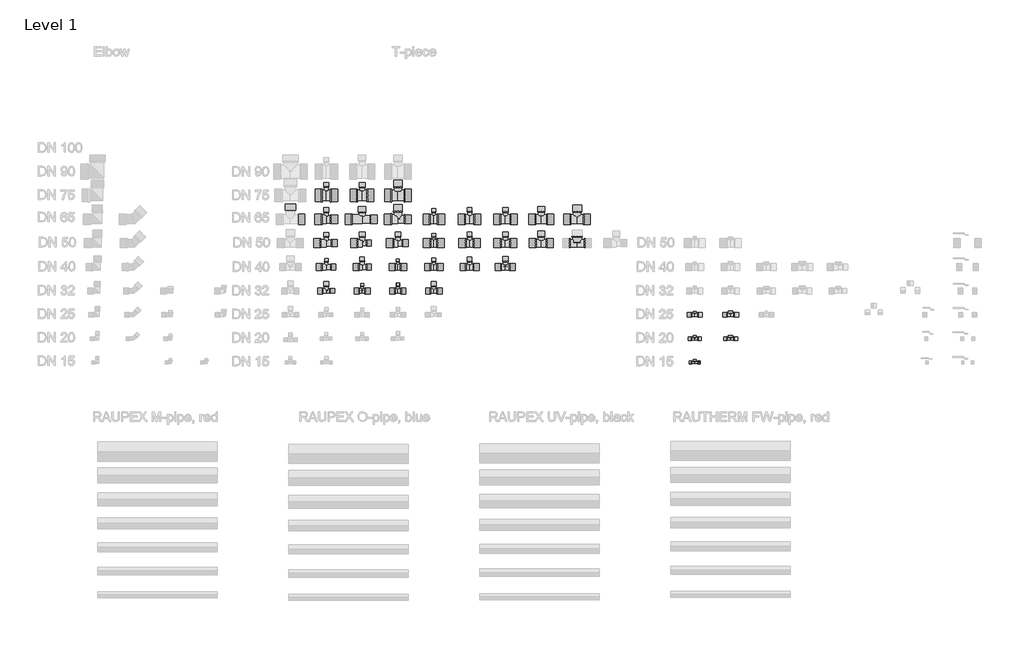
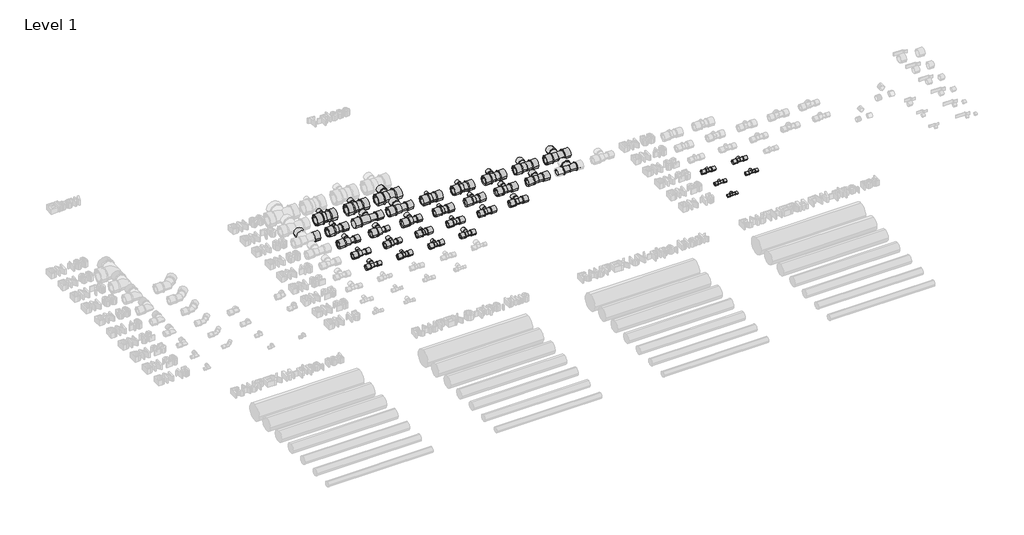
# One storey, part 5 of 16: 130 pipe fittings.
"""IFC4 building model written with IfcOpenShell, lengths in millimetres."""

from ifc_helpers import new_model, si_unit, origin, place, context, project, spatial, transform, mapped, element, save
from components import sleeve_lx_11_2e170aa1, sleeve_lx_11_3fcb8560, sleeve_lx_11_f19e3dbf, sleeve_lx_11_b9b419b6, sleeve_lx_11_e5eab1a7, sleeve_lx_11_ddfe2885, sleeve_lx_11_4a8bb2b2, sleeve_lx_11_864eb6fe, sleeve_lx_11_c8be5d8f, sleeve_rx_11_7b1edd19, sleeve_rx_11_d7b6a074, t_piece_sdr11_lx_0c38f34f, t_piece_sdr11_lx_75e13a52, t_piece_sdr11_lx_4c8c54f7, t_piece_sdr11_lx_63dd1f1d, t_piece_sdr11_lx_b9ecea4a, t_piece_sdr11_lx_dfdbaae2, t_piece_sdr11_lx_031e45e8, t_piece_sdr11_lx_8dcbc21c, t_piece_sdr11_lx_149c8f26, t_piece_sdr11_lx_bd781c14, t_piece_sdr11_lx_aa92336d, t_piece_sdr11_lx_82b26c80, t_piece_sdr11_lx_b870d911, t_piece_sdr11_lx_8f242d45, t_piece_sdr11_lx_a8b36c13, t_piece_sdr11_lx_7730ed08, t_piece_sdr11_lx_51ccf36a, t_piece_sdr11_lx_t_piece_sdr11_rx_21ca84d2, t_piece_sdr11_lx_t_piece_sdr11_rx_c902879b, t_piece_sdr11_lx_t_piece_sdr11_rx_e4a54ba6, t_piece_sdr11_lx_t_piece_sdr11_rx_5d5b0444, t_piece_sdr11_lx_t_piece_sdr11_rx_ea6c35c2, t_piece_sdr11_lx_t_piece_sdr11_rx_5838618a, t_piece_sdr11_lx_t_piece_sdr11_rx_05f4d052, t_piece_sdr11_lx_t_piece_sdr11_rx_636d46ae, t_piece_sdr11_lx_t_piece_sdr11_rx_d9e8349e, t_piece_sdr11_lx_t_piece_sdr11_rx_7a841b34, t_piece_sdr11_lx_t_piece_sdr11_rx_10ffb44c, t_piece_sdr11_lx_t_piece_sdr11_rx_3943f51e, t_piece_sdr11_internal_thread_lx_8e1e4240, t_piece_sdr11_internal_thread_lx_d718ae2c, t_piece_sdr11_internal_thread_lx_568c0ff7, t_piece_sdr11_internal_thread_lx_c276f615, t_piece_sdr11_internal_thread_lx_835d7b5e

model = new_model("IFC4")

# Units and contexts
model_context = context("Model", 3, world=origin())
ifc_project = project(units=[si_unit("LENGTHUNIT", "METRE", prefix="MILLI")], contexts=[model_context])

# Site, building, storey
site = spatial("IfcSite", under=ifc_project)
building = spatial("IfcBuilding", under=site)
storey = spatial("IfcBuildingStorey", under=building, Name="Level 1", Elevation=0.0)

# Pipe fittings
placement = place(None, origin())
sleeve_lx_11_shape = sleeve_lx_11_2e170aa1(model_context)
element("IfcPipeFitting", 1, ObjectType="Sleeve : LX 11", at=placement, inside=storey, context=model_context, shape_type="MappedRepresentation", body=[
    mapped(sleeve_lx_11_shape, transform((19447.2141419, 840.5489138, 0.0), x_axis=(1.0, 0.0, 0.0), y_axis=(0.0, 1.0, 0.0), z_axis=(0.0, 0.0, 1.0))),
])
element("IfcPipeFitting", 2, ObjectType="Sleeve : LX 11", at=placement, inside=storey, context=model_context, shape_type="MappedRepresentation", body=[
    mapped(sleeve_lx_11_shape, transform((19743.9141419, 840.5489138, 0.0), x_axis=(1.0, 0.0, 0.0), y_axis=(0.0, 1.0, 0.0), z_axis=(0.0, 0.0, 1.0))),
])
element("IfcPipeFitting", 3, ObjectType="Sleeve : LX 11", at=placement, inside=storey, context=model_context, shape_type="MappedRepresentation", body=[
    mapped(sleeve_lx_11_shape, transform((16426.2141419, 1082.5489138, 0.0), x_axis=(0.0, 1.0, 0.0), y_axis=(-1.0, 0.0, 0.0), z_axis=(0.0, 0.0, 1.0))),
])
element("IfcPipeFitting", 4, ObjectType="Sleeve : LX 11", at=placement, inside=storey, context=model_context, shape_type="MappedRepresentation", body=[
    mapped(sleeve_lx_11_shape, transform((16461.2141419, 1040.5489138, 0.0), x_axis=(1.0, 0.0, 0.0), y_axis=(0.0, 1.0, 0.0), z_axis=(0.0, 0.0, 1.0))),
])
element("IfcPipeFitting", 5, ObjectType="Sleeve : LX 11", at=placement, inside=storey, context=model_context, shape_type="MappedRepresentation", body=[
    mapped(sleeve_lx_11_shape, transform((16726.2141419, 1288.9489138, 0.0), x_axis=(0.0, 1.0, 0.0), y_axis=(-1.0, 0.0, 0.0), z_axis=(0.0, 0.0, 1.0))),
])
element("IfcPipeFitting", 6, ObjectType="Sleeve : LX 11", at=placement, inside=storey, context=model_context, shape_type="MappedRepresentation", body=[
    mapped(sleeve_lx_11_shape, transform((16426.2141419, 1495.5489138, 0.0), x_axis=(0.0, 1.0, 0.0), y_axis=(-1.0, 0.0, 0.0), z_axis=(0.0, 0.0, 1.0))),
])
element("IfcPipeFitting", 7, ObjectType="Sleeve : LX 11", at=placement, inside=storey, context=model_context, shape_type="MappedRepresentation", body=[
    mapped(sleeve_lx_11_shape, transform((16426.2141419, 1702.5489138, 0.0), x_axis=(0.0, 1.0, 0.0), y_axis=(-1.0, 0.0, 0.0), z_axis=(0.0, 0.0, 1.0))),
])
element("IfcPipeFitting", 8, ObjectType="Sleeve : LX 11", at=placement, inside=storey, context=model_context, shape_type="MappedRepresentation", body=[
    mapped(sleeve_lx_11_shape, transform((17326.2141419, 1082.5489138, 0.0), x_axis=(0.0, 1.0, 0.0), y_axis=(-1.0, 0.0, 0.0), z_axis=(0.0, 0.0, 1.0))),
])
element("IfcPipeFitting", 9, ObjectType="Sleeve : LX 11", at=placement, inside=storey, context=model_context, shape_type="MappedRepresentation", body=[
    mapped(sleeve_lx_11_shape, transform((17626.2141419, 1287.3489138, 0.0), x_axis=(0.0, 1.0, 0.0), y_axis=(-1.0, 0.0, 0.0), z_axis=(0.0, 0.0, 1.0))),
])
element("IfcPipeFitting", 10, ObjectType="Sleeve : LX 11", at=placement, inside=storey, context=model_context, shape_type="MappedRepresentation", body=[
    mapped(sleeve_lx_11_shape, transform((17626.2141419, 1497.5489138, 0.0), x_axis=(0.0, 1.0, 0.0), y_axis=(-1.0, 0.0, 0.0), z_axis=(0.0, 0.0, 1.0))),
])
element("IfcPipeFitting", 11, ObjectType="Sleeve : LX 11", at=placement, inside=storey, context=model_context, shape_type="MappedRepresentation", body=[
    mapped(sleeve_lx_11_shape, transform((17626.2141419, 1703.3489138, 0.0), x_axis=(0.0, 1.0, 0.0), y_axis=(-1.0, 0.0, 0.0), z_axis=(0.0, 0.0, 1.0))),
])
element("IfcPipeFitting", 12, ObjectType="Sleeve : LX 11", at=placement, inside=storey, context=model_context, shape_type="MappedRepresentation", body=[
    mapped(sleeve_lx_11_shape, transform((16426.2141419, 1913.0489138, 0.0), x_axis=(0.0, 1.0, 0.0), y_axis=(-1.0, 0.0, 0.0), z_axis=(0.0, 0.0, 1.0))),
])
sleeve_lx_11_2_shape = sleeve_lx_11_3fcb8560(model_context)
element("IfcPipeFitting", 13, ObjectType="Sleeve : LX 11", at=placement, inside=storey, context=model_context, shape_type="MappedRepresentation", body=[
    mapped(sleeve_lx_11_2_shape, transform((19463.2141419, 440.5489138, 0.0), x_axis=(1.0, 0.0, 0.0), y_axis=(0.0, 1.0, 0.0), z_axis=(0.0, 0.0, 1.0))),
])
element("IfcPipeFitting", 14, ObjectType="Sleeve : LX 11", at=placement, inside=storey, context=model_context, shape_type="MappedRepresentation", body=[
    mapped(sleeve_lx_11_2_shape, transform((16726.2141419, 1082.7489138, 0.0), x_axis=(0.0, 1.0, 0.0), y_axis=(-1.0, 0.0, 0.0), z_axis=(0.0, 0.0, 1.0))),
])
element("IfcPipeFitting", 15, ObjectType="Sleeve : LX 11", at=placement, inside=storey, context=model_context, shape_type="MappedRepresentation", body=[
    mapped(sleeve_lx_11_2_shape, transform((17026.2141419, 1286.3489138, 0.0), x_axis=(0.0, 1.0, 0.0), y_axis=(-1.0, 0.0, 0.0), z_axis=(0.0, 0.0, 1.0))),
])
sleeve_lx_11_3_shape = sleeve_lx_11_f19e3dbf(model_context)
element("IfcPipeFitting", 16, ObjectType="Sleeve : LX 11", at=placement, inside=storey, context=model_context, shape_type="MappedRepresentation", body=[
    mapped(sleeve_lx_11_3_shape, transform((19456.2141419, 640.5489138, 0.0), x_axis=(1.0, 0.0, 0.0), y_axis=(0.0, 1.0, 0.0), z_axis=(0.0, 0.0, 1.0))),
])
element("IfcPipeFitting", 17, ObjectType="Sleeve : LX 11", at=placement, inside=storey, context=model_context, shape_type="MappedRepresentation", body=[
    mapped(sleeve_lx_11_3_shape, transform((19752.9141419, 640.5489138, 0.0), x_axis=(1.0, 0.0, 0.0), y_axis=(0.0, 1.0, 0.0), z_axis=(0.0, 0.0, 1.0))),
])
element("IfcPipeFitting", 18, ObjectType="Sleeve : LX 11", at=placement, inside=storey, context=model_context, shape_type="MappedRepresentation", body=[
    mapped(sleeve_lx_11_3_shape, transform((16426.2141419, 1286.4489138, 0.0), x_axis=(0.0, 1.0, 0.0), y_axis=(-1.0, 0.0, 0.0), z_axis=(0.0, 0.0, 1.0))),
])
element("IfcPipeFitting", 19, ObjectType="Sleeve : LX 11", at=placement, inside=storey, context=model_context, shape_type="MappedRepresentation", body=[
    mapped(sleeve_lx_11_3_shape, transform((17026.2141419, 1081.0489138, 0.0), x_axis=(0.0, 1.0, 0.0), y_axis=(-1.0, 0.0, 0.0), z_axis=(0.0, 0.0, 1.0))),
])
element("IfcPipeFitting", 20, ObjectType="Sleeve : LX 11", at=placement, inside=storey, context=model_context, shape_type="MappedRepresentation", body=[
    mapped(sleeve_lx_11_3_shape, transform((17326.2141419, 1287.8489138, 0.0), x_axis=(0.0, 1.0, 0.0), y_axis=(-1.0, 0.0, 0.0), z_axis=(0.0, 0.0, 1.0))),
])
element("IfcPipeFitting", 21, ObjectType="Sleeve : LX 11", at=placement, inside=storey, context=model_context, shape_type="MappedRepresentation", body=[
    mapped(sleeve_lx_11_3_shape, transform((17326.2141419, 1493.7489138, 0.0), x_axis=(0.0, 1.0, 0.0), y_axis=(-1.0, 0.0, 0.0), z_axis=(0.0, 0.0, 1.0))),
])
element("IfcPipeFitting", 22, ObjectType="Sleeve : LX 11", at=placement, inside=storey, context=model_context, shape_type="MappedRepresentation", body=[
    mapped(sleeve_lx_11_3_shape, transform((17326.2141419, 1701.5489138, 0.0), x_axis=(0.0, 1.0, 0.0), y_axis=(-1.0, 0.0, 0.0), z_axis=(0.0, 0.0, 1.0))),
])
sleeve_lx_11_4_shape = sleeve_lx_11_b9b419b6(model_context)
element("IfcPipeFitting", 23, ObjectType="Sleeve : LX 11", at=placement, inside=storey, context=model_context, shape_type="MappedRepresentation", body=[
    mapped(sleeve_lx_11_4_shape, transform((16354.2141419, 1040.5489138, 0.0), x_axis=(1.0, 0.0, 0.0), y_axis=(0.0, 1.0, 0.0), z_axis=(0.0, 0.0, 1.0))),
])
element("IfcPipeFitting", 24, ObjectType="Sleeve : LX 11", at=placement, inside=storey, context=model_context, shape_type="MappedRepresentation", body=[
    mapped(sleeve_lx_11_4_shape, transform((16469.2141419, 1240.5489138, 0.0), x_axis=(1.0, 0.0, 0.0), y_axis=(0.0, 1.0, 0.0), z_axis=(0.0, 0.0, 1.0))),
])
element("IfcPipeFitting", 25, ObjectType="Sleeve : LX 11", at=placement, inside=storey, context=model_context, shape_type="MappedRepresentation", body=[
    mapped(sleeve_lx_11_4_shape, transform((16767.3141419, 1240.5489138, 0.0), x_axis=(1.0, 0.0, 0.0), y_axis=(0.0, 1.0, 0.0), z_axis=(0.0, 0.0, 1.0))),
])
element("IfcPipeFitting", 26, ObjectType="Sleeve : LX 11", at=placement, inside=storey, context=model_context, shape_type="MappedRepresentation", body=[
    mapped(sleeve_lx_11_4_shape, transform((16726.2141419, 1497.0489138, 0.0), x_axis=(0.0, 1.0, 0.0), y_axis=(-1.0, 0.0, 0.0), z_axis=(0.0, 0.0, 1.0))),
])
element("IfcPipeFitting", 27, ObjectType="Sleeve : LX 11", at=placement, inside=storey, context=model_context, shape_type="MappedRepresentation", body=[
    mapped(sleeve_lx_11_4_shape, transform((16767.3141419, 1440.5489138, 0.0), x_axis=(1.0, 0.0, 0.0), y_axis=(0.0, 1.0, 0.0), z_axis=(0.0, 0.0, 1.0))),
])
element("IfcPipeFitting", 28, ObjectType="Sleeve : LX 11", at=placement, inside=storey, context=model_context, shape_type="MappedRepresentation", body=[
    mapped(sleeve_lx_11_4_shape, transform((17026.2141419, 1497.0489138, 0.0), x_axis=(0.0, 1.0, 0.0), y_axis=(-1.0, 0.0, 0.0), z_axis=(0.0, 0.0, 1.0))),
])
element("IfcPipeFitting", 29, ObjectType="Sleeve : LX 11", at=placement, inside=storey, context=model_context, shape_type="MappedRepresentation", body=[
    mapped(sleeve_lx_11_4_shape, transform((16659.0141419, 1040.5489138, 0.0), x_axis=(1.0, 0.0, 0.0), y_axis=(0.0, 1.0, 0.0), z_axis=(0.0, 0.0, 1.0))),
])
element("IfcPipeFitting", 30, ObjectType="Sleeve : LX 11", at=placement, inside=storey, context=model_context, shape_type="MappedRepresentation", body=[
    mapped(sleeve_lx_11_4_shape, transform((16756.4141419, 1040.5489138, 0.0), x_axis=(1.0, 0.0, 0.0), y_axis=(0.0, 1.0, 0.0), z_axis=(0.0, 0.0, 1.0))),
])
element("IfcPipeFitting", 31, ObjectType="Sleeve : LX 11", at=placement, inside=storey, context=model_context, shape_type="MappedRepresentation", body=[
    mapped(sleeve_lx_11_4_shape, transform((16959.4141419, 1040.5489138, 0.0), x_axis=(1.0, 0.0, 0.0), y_axis=(0.0, 1.0, 0.0), z_axis=(0.0, 0.0, 1.0))),
])
element("IfcPipeFitting", 32, ObjectType="Sleeve : LX 11", at=placement, inside=storey, context=model_context, shape_type="MappedRepresentation", body=[
    mapped(sleeve_lx_11_4_shape, transform((17056.0141419, 1040.5489138, 0.0), x_axis=(1.0, 0.0, 0.0), y_axis=(0.0, 1.0, 0.0), z_axis=(0.0, 0.0, 1.0))),
])
element("IfcPipeFitting", 33, ObjectType="Sleeve : LX 11", at=placement, inside=storey, context=model_context, shape_type="MappedRepresentation", body=[
    mapped(sleeve_lx_11_4_shape, transform((17257.4141419, 1040.5489138, 0.0), x_axis=(1.0, 0.0, 0.0), y_axis=(0.0, 1.0, 0.0), z_axis=(0.0, 0.0, 1.0))),
])
element("IfcPipeFitting", 34, ObjectType="Sleeve : LX 11", at=placement, inside=storey, context=model_context, shape_type="MappedRepresentation", body=[
    mapped(sleeve_lx_11_4_shape, transform((17358.0141419, 1040.5489138, 0.0), x_axis=(1.0, 0.0, 0.0), y_axis=(0.0, 1.0, 0.0), z_axis=(0.0, 0.0, 1.0))),
])
element("IfcPipeFitting", 35, ObjectType="Sleeve : LX 11", at=placement, inside=storey, context=model_context, shape_type="MappedRepresentation", body=[
    mapped(sleeve_lx_11_4_shape, transform((17926.2141419, 1289.5489138, 0.0), x_axis=(0.0, 1.0, 0.0), y_axis=(-1.0, 0.0, 0.0), z_axis=(0.0, 0.0, 1.0))),
])
element("IfcPipeFitting", 36, ObjectType="Sleeve : LX 11", at=placement, inside=storey, context=model_context, shape_type="MappedRepresentation", body=[
    mapped(sleeve_lx_11_4_shape, transform((17926.2141419, 1497.0489138, 0.0), x_axis=(0.0, 1.0, 0.0), y_axis=(-1.0, 0.0, 0.0), z_axis=(0.0, 0.0, 1.0))),
])
element("IfcPipeFitting", 37, ObjectType="Sleeve : LX 11", at=placement, inside=storey, context=model_context, shape_type="MappedRepresentation", body=[
    mapped(sleeve_lx_11_4_shape, transform((17926.2141419, 1702.9489138, 0.0), x_axis=(0.0, 1.0, 0.0), y_axis=(-1.0, 0.0, 0.0), z_axis=(0.0, 0.0, 1.0))),
])
element("IfcPipeFitting", 38, ObjectType="Sleeve : LX 11", at=placement, inside=storey, context=model_context, shape_type="MappedRepresentation", body=[
    mapped(sleeve_lx_11_4_shape, transform((16726.2141419, 1912.0489138, 0.0), x_axis=(0.0, 1.0, 0.0), y_axis=(-1.0, 0.0, 0.0), z_axis=(0.0, 0.0, 1.0))),
])
sleeve_lx_11_5_shape = sleeve_lx_11_e5eab1a7(model_context)
element("IfcPipeFitting", 39, ObjectType="Sleeve : LX 11", at=placement, inside=storey, context=model_context, shape_type="MappedRepresentation", body=[
    mapped(sleeve_lx_11_5_shape, transform((16340.6141419, 1240.5489138, 0.0), x_axis=(1.0, 0.0, 0.0), y_axis=(0.0, 1.0, 0.0), z_axis=(0.0, 0.0, 1.0))),
])
element("IfcPipeFitting", 40, ObjectType="Sleeve : LX 11", at=placement, inside=storey, context=model_context, shape_type="MappedRepresentation", body=[
    mapped(sleeve_lx_11_5_shape, transform((16649.9141419, 1240.5489138, 0.0), x_axis=(1.0, 0.0, 0.0), y_axis=(0.0, 1.0, 0.0), z_axis=(0.0, 0.0, 1.0))),
])
element("IfcPipeFitting", 41, ObjectType="Sleeve : LX 11", at=placement, inside=storey, context=model_context, shape_type="MappedRepresentation", body=[
    mapped(sleeve_lx_11_5_shape, transform((16474.8141419, 1440.5489138, 0.0), x_axis=(1.0, 0.0, 0.0), y_axis=(0.0, 1.0, 0.0), z_axis=(0.0, 0.0, 1.0))),
])
element("IfcPipeFitting", 42, ObjectType="Sleeve : LX 11", at=placement, inside=storey, context=model_context, shape_type="MappedRepresentation", body=[
    mapped(sleeve_lx_11_5_shape, transform((17067.4141419, 1440.5489138, 0.0), x_axis=(1.0, 0.0, 0.0), y_axis=(0.0, 1.0, 0.0), z_axis=(0.0, 0.0, 1.0))),
])
element("IfcPipeFitting", 43, ObjectType="Sleeve : LX 11", at=placement, inside=storey, context=model_context, shape_type="MappedRepresentation", body=[
    mapped(sleeve_lx_11_5_shape, transform((16726.2141419, 1701.4489138, 0.0), x_axis=(0.0, 1.0, 0.0), y_axis=(-1.0, 0.0, 0.0), z_axis=(0.0, 0.0, 1.0))),
])
element("IfcPipeFitting", 44, ObjectType="Sleeve : LX 11", at=placement, inside=storey, context=model_context, shape_type="MappedRepresentation", body=[
    mapped(sleeve_lx_11_5_shape, transform((16954.4141419, 1240.5489138, 0.0), x_axis=(1.0, 0.0, 0.0), y_axis=(0.0, 1.0, 0.0), z_axis=(0.0, 0.0, 1.0))),
])
element("IfcPipeFitting", 45, ObjectType="Sleeve : LX 11", at=placement, inside=storey, context=model_context, shape_type="MappedRepresentation", body=[
    mapped(sleeve_lx_11_5_shape, transform((17054.0141419, 1240.5489138, 0.0), x_axis=(1.0, 0.0, 0.0), y_axis=(0.0, 1.0, 0.0), z_axis=(0.0, 0.0, 1.0))),
])
element("IfcPipeFitting", 46, ObjectType="Sleeve : LX 11", at=placement, inside=storey, context=model_context, shape_type="MappedRepresentation", body=[
    mapped(sleeve_lx_11_5_shape, transform((17248.8141419, 1240.5489138, 0.0), x_axis=(1.0, 0.0, 0.0), y_axis=(0.0, 1.0, 0.0), z_axis=(0.0, 0.0, 1.0))),
])
element("IfcPipeFitting", 47, ObjectType="Sleeve : LX 11", at=placement, inside=storey, context=model_context, shape_type="MappedRepresentation", body=[
    mapped(sleeve_lx_11_5_shape, transform((17359.6141419, 1240.5489138, 0.0), x_axis=(1.0, 0.0, 0.0), y_axis=(0.0, 1.0, 0.0), z_axis=(0.0, 0.0, 1.0))),
])
element("IfcPipeFitting", 48, ObjectType="Sleeve : LX 11", at=placement, inside=storey, context=model_context, shape_type="MappedRepresentation", body=[
    mapped(sleeve_lx_11_5_shape, transform((17547.0141419, 1240.5489138, 0.0), x_axis=(1.0, 0.0, 0.0), y_axis=(0.0, 1.0, 0.0), z_axis=(0.0, 0.0, 1.0))),
])
element("IfcPipeFitting", 49, ObjectType="Sleeve : LX 11", at=placement, inside=storey, context=model_context, shape_type="MappedRepresentation", body=[
    mapped(sleeve_lx_11_5_shape, transform((17661.4141419, 1240.5489138, 0.0), x_axis=(1.0, 0.0, 0.0), y_axis=(0.0, 1.0, 0.0), z_axis=(0.0, 0.0, 1.0))),
])
element("IfcPipeFitting", 50, ObjectType="Sleeve : LX 11", at=placement, inside=storey, context=model_context, shape_type="MappedRepresentation", body=[
    mapped(sleeve_lx_11_5_shape, transform((17842.4141419, 1240.5489138, 0.0), x_axis=(1.0, 0.0, 0.0), y_axis=(0.0, 1.0, 0.0), z_axis=(0.0, 0.0, 1.0))),
])
element("IfcPipeFitting", 51, ObjectType="Sleeve : LX 11", at=placement, inside=storey, context=model_context, shape_type="MappedRepresentation", body=[
    mapped(sleeve_lx_11_5_shape, transform((17966.0141419, 1240.5489138, 0.0), x_axis=(1.0, 0.0, 0.0), y_axis=(0.0, 1.0, 0.0), z_axis=(0.0, 0.0, 1.0))),
])
element("IfcPipeFitting", 52, ObjectType="Sleeve : LX 11", at=placement, inside=storey, context=model_context, shape_type="MappedRepresentation", body=[
    mapped(sleeve_lx_11_5_shape, transform((18226.2141419, 1497.0489138, 0.0), x_axis=(0.0, 1.0, 0.0), y_axis=(-1.0, 0.0, 0.0), z_axis=(0.0, 0.0, 1.0))),
])
element("IfcPipeFitting", 53, ObjectType="Sleeve : LX 11", at=placement, inside=storey, context=model_context, shape_type="MappedRepresentation", body=[
    mapped(sleeve_lx_11_5_shape, transform((18226.2141419, 1704.5489138, 0.0), x_axis=(0.0, 1.0, 0.0), y_axis=(-1.0, 0.0, 0.0), z_axis=(0.0, 0.0, 1.0))),
])
sleeve_lx_11_6_shape = sleeve_lx_11_ddfe2885(model_context)
element("IfcPipeFitting", 54, ObjectType="Sleeve : LX 11", at=placement, inside=storey, context=model_context, shape_type="MappedRepresentation", body=[
    mapped(sleeve_lx_11_6_shape, transform((16320.2141419, 1440.5489138, 0.0), x_axis=(1.0, 0.0, 0.0), y_axis=(0.0, 1.0, 0.0), z_axis=(0.0, 0.0, 1.0))),
])
element("IfcPipeFitting", 55, ObjectType="Sleeve : LX 11", at=placement, inside=storey, context=model_context, shape_type="MappedRepresentation", body=[
    mapped(sleeve_lx_11_6_shape, transform((16629.9141419, 1440.5489138, 0.0), x_axis=(1.0, 0.0, 0.0), y_axis=(0.0, 1.0, 0.0), z_axis=(0.0, 0.0, 1.0))),
])
element("IfcPipeFitting", 56, ObjectType="Sleeve : LX 11", at=placement, inside=storey, context=model_context, shape_type="MappedRepresentation", body=[
    mapped(sleeve_lx_11_6_shape, transform((16929.9141419, 1440.5489138, 0.0), x_axis=(1.0, 0.0, 0.0), y_axis=(0.0, 1.0, 0.0), z_axis=(0.0, 0.0, 1.0))),
])
element("IfcPipeFitting", 57, ObjectType="Sleeve : LX 11", at=placement, inside=storey, context=model_context, shape_type="MappedRepresentation", body=[
    mapped(sleeve_lx_11_6_shape, transform((16467.7141419, 1640.5489138, 0.0), x_axis=(1.0, 0.0, 0.0), y_axis=(0.0, 1.0, 0.0), z_axis=(0.0, 0.0, 1.0))),
])
element("IfcPipeFitting", 58, ObjectType="Sleeve : LX 11", at=placement, inside=storey, context=model_context, shape_type="MappedRepresentation", body=[
    mapped(sleeve_lx_11_6_shape, transform((16800.0141419, 1640.5489138, 0.0), x_axis=(1.0, 0.0, 0.0), y_axis=(0.0, 1.0, 0.0), z_axis=(0.0, 0.0, 1.0))),
])
element("IfcPipeFitting", 59, ObjectType="Sleeve : LX 11", at=placement, inside=storey, context=model_context, shape_type="MappedRepresentation", body=[
    mapped(sleeve_lx_11_6_shape, transform((17026.2141419, 1708.7489138, 0.0), x_axis=(0.0, 1.0, 0.0), y_axis=(-1.0, 0.0, 0.0), z_axis=(0.0, 0.0, 1.0))),
])
element("IfcPipeFitting", 60, ObjectType="Sleeve : LX 11", at=placement, inside=storey, context=model_context, shape_type="MappedRepresentation", body=[
    mapped(sleeve_lx_11_6_shape, transform((17086.1141419, 1640.5489138, 0.0), x_axis=(1.0, 0.0, 0.0), y_axis=(0.0, 1.0, 0.0), z_axis=(0.0, 0.0, 1.0))),
])
element("IfcPipeFitting", 61, ObjectType="Sleeve : LX 11", at=placement, inside=storey, context=model_context, shape_type="MappedRepresentation", body=[
    mapped(sleeve_lx_11_6_shape, transform((17238.9141419, 1440.5489138, 0.0), x_axis=(1.0, 0.0, 0.0), y_axis=(0.0, 1.0, 0.0), z_axis=(0.0, 0.0, 1.0))),
])
element("IfcPipeFitting", 62, ObjectType="Sleeve : LX 11", at=placement, inside=storey, context=model_context, shape_type="MappedRepresentation", body=[
    mapped(sleeve_lx_11_6_shape, transform((17360.5141419, 1440.5489138, 0.0), x_axis=(1.0, 0.0, 0.0), y_axis=(0.0, 1.0, 0.0), z_axis=(0.0, 0.0, 1.0))),
])
element("IfcPipeFitting", 63, ObjectType="Sleeve : LX 11", at=placement, inside=storey, context=model_context, shape_type="MappedRepresentation", body=[
    mapped(sleeve_lx_11_6_shape, transform((17536.4141419, 1440.5489138, 0.0), x_axis=(1.0, 0.0, 0.0), y_axis=(0.0, 1.0, 0.0), z_axis=(0.0, 0.0, 1.0))),
])
element("IfcPipeFitting", 64, ObjectType="Sleeve : LX 11", at=placement, inside=storey, context=model_context, shape_type="MappedRepresentation", body=[
    mapped(sleeve_lx_11_6_shape, transform((17663.0141419, 1440.5489138, 0.0), x_axis=(1.0, 0.0, 0.0), y_axis=(0.0, 1.0, 0.0), z_axis=(0.0, 0.0, 1.0))),
])
element("IfcPipeFitting", 65, ObjectType="Sleeve : LX 11", at=placement, inside=storey, context=model_context, shape_type="MappedRepresentation", body=[
    mapped(sleeve_lx_11_6_shape, transform((17829.9141419, 1440.5489138, 0.0), x_axis=(1.0, 0.0, 0.0), y_axis=(0.0, 1.0, 0.0), z_axis=(0.0, 0.0, 1.0))),
])
element("IfcPipeFitting", 66, ObjectType="Sleeve : LX 11", at=placement, inside=storey, context=model_context, shape_type="MappedRepresentation", body=[
    mapped(sleeve_lx_11_6_shape, transform((17969.5141419, 1440.5489138, 0.0), x_axis=(1.0, 0.0, 0.0), y_axis=(0.0, 1.0, 0.0), z_axis=(0.0, 0.0, 1.0))),
])
element("IfcPipeFitting", 67, ObjectType="Sleeve : LX 11", at=placement, inside=storey, context=model_context, shape_type="MappedRepresentation", body=[
    mapped(sleeve_lx_11_6_shape, transform((18123.9141419, 1440.5489138, 0.0), x_axis=(1.0, 0.0, 0.0), y_axis=(0.0, 1.0, 0.0), z_axis=(0.0, 0.0, 1.0))),
])
element("IfcPipeFitting", 68, ObjectType="Sleeve : LX 11", at=placement, inside=storey, context=model_context, shape_type="MappedRepresentation", body=[
    mapped(sleeve_lx_11_6_shape, transform((18275.5141419, 1440.5489138, 0.0), x_axis=(1.0, 0.0, 0.0), y_axis=(0.0, 1.0, 0.0), z_axis=(0.0, 0.0, 1.0))),
])
element("IfcPipeFitting", 69, ObjectType="Sleeve : LX 11", at=placement, inside=storey, context=model_context, shape_type="MappedRepresentation", body=[
    mapped(sleeve_lx_11_6_shape, transform((18526.2141419, 1707.0489138, 0.0), x_axis=(0.0, 1.0, 0.0), y_axis=(-1.0, 0.0, 0.0), z_axis=(0.0, 0.0, 1.0))),
])
element("IfcPipeFitting", 70, ObjectType="Sleeve : LX 11", at=placement, inside=storey, context=model_context, shape_type="MappedRepresentation", body=[
    mapped(sleeve_lx_11_6_shape, transform((17026.2141419, 1915.6489138, 0.0), x_axis=(0.0, 1.0, 0.0), y_axis=(-1.0, 0.0, 0.0), z_axis=(0.0, 0.0, 1.0))),
])
sleeve_lx_11_7_shape = sleeve_lx_11_4a8bb2b2(model_context)
element("IfcPipeFitting", 71, ObjectType="Sleeve : LX 11", at=placement, inside=storey, context=model_context, shape_type="MappedRepresentation", body=[
    mapped(sleeve_lx_11_7_shape, transform((19575.2141419, 840.5489138, 0.0), x_axis=(-1.0, 0.0, 0.0), y_axis=(0.0, -1.0, 0.0), z_axis=(0.0, 0.0, 1.0))),
])
element("IfcPipeFitting", 72, ObjectType="Sleeve : LX 11", at=placement, inside=storey, context=model_context, shape_type="MappedRepresentation", body=[
    mapped(sleeve_lx_11_7_shape, transform((19878.5141419, 840.5489138, 0.0), x_axis=(-1.0, 0.0, 0.0), y_axis=(0.0, -1.0, 0.0), z_axis=(0.0, 0.0, 1.0))),
])
sleeve_lx_11_8_shape = sleeve_lx_11_864eb6fe(model_context)
element("IfcPipeFitting", 73, ObjectType="Sleeve : LX 11", at=placement, inside=storey, context=model_context, shape_type="MappedRepresentation", body=[
    mapped(sleeve_lx_11_8_shape, transform((19559.2141419, 440.5489138, 0.0), x_axis=(-1.0, 0.0, 0.0), y_axis=(0.0, -1.0, 0.0), z_axis=(0.0, 0.0, 1.0))),
])
sleeve_lx_11_9_shape = sleeve_lx_11_c8be5d8f(model_context)
element("IfcPipeFitting", 74, ObjectType="Sleeve : LX 11", at=placement, inside=storey, context=model_context, shape_type="MappedRepresentation", body=[
    mapped(sleeve_lx_11_9_shape, transform((19566.2141419, 640.5489138, 0.0), x_axis=(-1.0, 0.0, 0.0), y_axis=(0.0, -1.0, 0.0), z_axis=(0.0, 0.0, 1.0))),
])
element("IfcPipeFitting", 75, ObjectType="Sleeve : LX 11", at=placement, inside=storey, context=model_context, shape_type="MappedRepresentation", body=[
    mapped(sleeve_lx_11_9_shape, transform((19869.5141419, 640.5489138, 0.0), x_axis=(-1.0, 0.0, 0.0), y_axis=(0.0, -1.0, 0.0), z_axis=(0.0, 0.0, 1.0))),
])
sleeve_rx_11_shape = sleeve_rx_11_7b1edd19(model_context)
element("IfcPipeFitting", 76, ObjectType="Sleeve : RX 11", at=placement, inside=storey, context=model_context, shape_type="MappedRepresentation", body=[
    mapped(sleeve_rx_11_shape, transform((16332.2141419, 1840.5489138, 0.0), x_axis=(1.0, 0.0, 0.0), y_axis=(0.0, 1.0, 0.0), z_axis=(0.0, 0.0, 1.0))),
])
element("IfcPipeFitting", 77, ObjectType="Sleeve : RX 11", at=placement, inside=storey, context=model_context, shape_type="MappedRepresentation", body=[
    mapped(sleeve_rx_11_shape, transform((16467.2141419, 1840.5489138, 0.0), x_axis=(1.0, 0.0, 0.0), y_axis=(0.0, 1.0, 0.0), z_axis=(0.0, 0.0, 1.0))),
])
element("IfcPipeFitting", 78, ObjectType="Sleeve : RX 11", at=placement, inside=storey, context=model_context, shape_type="MappedRepresentation", body=[
    mapped(sleeve_rx_11_shape, transform((16627.3141419, 1840.5489138, 0.0), x_axis=(1.0, 0.0, 0.0), y_axis=(0.0, 1.0, 0.0), z_axis=(0.0, 0.0, 1.0))),
])
element("IfcPipeFitting", 79, ObjectType="Sleeve : RX 11", at=placement, inside=storey, context=model_context, shape_type="MappedRepresentation", body=[
    mapped(sleeve_rx_11_shape, transform((16772.1141419, 1840.5489138, 0.0), x_axis=(1.0, 0.0, 0.0), y_axis=(0.0, 1.0, 0.0), z_axis=(0.0, 0.0, 1.0))),
])
element("IfcPipeFitting", 80, ObjectType="Sleeve : RX 11", at=placement, inside=storey, context=model_context, shape_type="MappedRepresentation", body=[
    mapped(sleeve_rx_11_shape, transform((16914.4141419, 1840.5489138, 0.0), x_axis=(1.0, 0.0, 0.0), y_axis=(0.0, 1.0, 0.0), z_axis=(0.0, 0.0, 1.0))),
])
element("IfcPipeFitting", 81, ObjectType="Sleeve : RX 11", at=placement, inside=storey, context=model_context, shape_type="MappedRepresentation", body=[
    mapped(sleeve_rx_11_shape, transform((17085.0141419, 1840.5489138, 0.0), x_axis=(1.0, 0.0, 0.0), y_axis=(0.0, 1.0, 0.0), z_axis=(0.0, 0.0, 1.0))),
])
sleeve_rx_11_2_shape = sleeve_rx_11_d7b6a074(model_context)
element("IfcPipeFitting", 82, ObjectType="Sleeve : RX 11", at=placement, inside=storey, context=model_context, shape_type="MappedRepresentation", body=[
    mapped(sleeve_rx_11_2_shape, transform((16126.2141419, 1715.4489138, 0.0), x_axis=(0.0, 1.0, 0.0), y_axis=(-1.0, 0.0, 0.0), z_axis=(0.0, 0.0, 1.0))),
])
element("IfcPipeFitting", 83, ObjectType="Sleeve : RX 11", at=placement, inside=storey, context=model_context, shape_type="MappedRepresentation", body=[
    mapped(sleeve_rx_11_2_shape, transform((16193.1141419, 1640.5489138, 0.0), x_axis=(1.0, 0.0, 0.0), y_axis=(0.0, 1.0, 0.0), z_axis=(0.0, 0.0, 1.0))),
])
element("IfcPipeFitting", 84, ObjectType="Sleeve : RX 11", at=placement, inside=storey, context=model_context, shape_type="MappedRepresentation", body=[
    mapped(sleeve_rx_11_2_shape, transform((16331.3141419, 1640.5489138, 0.0), x_axis=(1.0, 0.0, 0.0), y_axis=(0.0, 1.0, 0.0), z_axis=(0.0, 0.0, 1.0))),
])
element("IfcPipeFitting", 85, ObjectType="Sleeve : RX 11", at=placement, inside=storey, context=model_context, shape_type="MappedRepresentation", body=[
    mapped(sleeve_rx_11_2_shape, transform((16583.4141419, 1640.5489138, 0.0), x_axis=(1.0, 0.0, 0.0), y_axis=(0.0, 1.0, 0.0), z_axis=(0.0, 0.0, 1.0))),
])
element("IfcPipeFitting", 86, ObjectType="Sleeve : RX 11", at=placement, inside=storey, context=model_context, shape_type="MappedRepresentation", body=[
    mapped(sleeve_rx_11_2_shape, transform((16912.8141419, 1640.5489138, 0.0), x_axis=(1.0, 0.0, 0.0), y_axis=(0.0, 1.0, 0.0), z_axis=(0.0, 0.0, 1.0))),
])
element("IfcPipeFitting", 87, ObjectType="Sleeve : RX 11", at=placement, inside=storey, context=model_context, shape_type="MappedRepresentation", body=[
    mapped(sleeve_rx_11_2_shape, transform((17236.1141419, 1640.5489138, 0.0), x_axis=(1.0, 0.0, 0.0), y_axis=(0.0, 1.0, 0.0), z_axis=(0.0, 0.0, 1.0))),
])
element("IfcPipeFitting", 88, ObjectType="Sleeve : RX 11", at=placement, inside=storey, context=model_context, shape_type="MappedRepresentation", body=[
    mapped(sleeve_rx_11_2_shape, transform((17363.3141419, 1640.5489138, 0.0), x_axis=(1.0, 0.0, 0.0), y_axis=(0.0, 1.0, 0.0), z_axis=(0.0, 0.0, 1.0))),
])
element("IfcPipeFitting", 89, ObjectType="Sleeve : RX 11", at=placement, inside=storey, context=model_context, shape_type="MappedRepresentation", body=[
    mapped(sleeve_rx_11_2_shape, transform((17531.2141419, 1640.5489138, 0.0), x_axis=(1.0, 0.0, 0.0), y_axis=(0.0, 1.0, 0.0), z_axis=(0.0, 0.0, 1.0))),
])
element("IfcPipeFitting", 90, ObjectType="Sleeve : RX 11", at=placement, inside=storey, context=model_context, shape_type="MappedRepresentation", body=[
    mapped(sleeve_rx_11_2_shape, transform((17668.2141419, 1640.5489138, 0.0), x_axis=(1.0, 0.0, 0.0), y_axis=(0.0, 1.0, 0.0), z_axis=(0.0, 0.0, 1.0))),
])
element("IfcPipeFitting", 91, ObjectType="Sleeve : RX 11", at=placement, inside=storey, context=model_context, shape_type="MappedRepresentation", body=[
    mapped(sleeve_rx_11_2_shape, transform((17827.2141419, 1640.5489138, 0.0), x_axis=(1.0, 0.0, 0.0), y_axis=(0.0, 1.0, 0.0), z_axis=(0.0, 0.0, 1.0))),
])
element("IfcPipeFitting", 92, ObjectType="Sleeve : RX 11", at=placement, inside=storey, context=model_context, shape_type="MappedRepresentation", body=[
    mapped(sleeve_rx_11_2_shape, transform((17972.2141419, 1640.5489138, 0.0), x_axis=(1.0, 0.0, 0.0), y_axis=(0.0, 1.0, 0.0), z_axis=(0.0, 0.0, 1.0))),
])
element("IfcPipeFitting", 93, ObjectType="Sleeve : RX 11", at=placement, inside=storey, context=model_context, shape_type="MappedRepresentation", body=[
    mapped(sleeve_rx_11_2_shape, transform((18121.5141419, 1640.5489138, 0.0), x_axis=(1.0, 0.0, 0.0), y_axis=(0.0, 1.0, 0.0), z_axis=(0.0, 0.0, 1.0))),
])
element("IfcPipeFitting", 94, ObjectType="Sleeve : RX 11", at=placement, inside=storey, context=model_context, shape_type="MappedRepresentation", body=[
    mapped(sleeve_rx_11_2_shape, transform((18277.9141419, 1640.5489138, 0.0), x_axis=(1.0, 0.0, 0.0), y_axis=(0.0, 1.0, 0.0), z_axis=(0.0, 0.0, 1.0))),
])
element("IfcPipeFitting", 95, ObjectType="Sleeve : RX 11", at=placement, inside=storey, context=model_context, shape_type="MappedRepresentation", body=[
    mapped(sleeve_rx_11_2_shape, transform((18414.3141419, 1640.5489138, 0.0), x_axis=(1.0, 0.0, 0.0), y_axis=(0.0, 1.0, 0.0), z_axis=(0.0, 0.0, 1.0))),
])
element("IfcPipeFitting", 96, ObjectType="Sleeve : RX 11", at=placement, inside=storey, context=model_context, shape_type="MappedRepresentation", body=[
    mapped(sleeve_rx_11_2_shape, transform((18585.1141419, 1640.5489138, 0.0), x_axis=(1.0, 0.0, 0.0), y_axis=(0.0, 1.0, 0.0), z_axis=(0.0, 0.0, 1.0))),
])
t_piece_sdr11_lx_shape = t_piece_sdr11_lx_0c38f34f(model_context)
element("IfcPipeFitting", 97, ObjectType="T-piece SDR11 LX : T-piece LX SDR11 LX", at=placement, inside=storey, context=model_context, shape_type="MappedRepresentation", body=[
    mapped(t_piece_sdr11_lx_shape, transform((16426.2141419, 1040.5489138, 0.0), x_axis=(1.0, 0.0, 0.0), y_axis=(0.0, 1.0, 0.0), z_axis=(0.0, 0.0, 1.0))),
])
t_piece_sdr11_lx_2_shape = t_piece_sdr11_lx_75e13a52(model_context)
element("IfcPipeFitting", 98, ObjectType="T-piece SDR11 LX : T-piece LX SDR11 LX", at=placement, inside=storey, context=model_context, shape_type="MappedRepresentation", body=[
    mapped(t_piece_sdr11_lx_2_shape, transform((16426.2141419, 1240.5489138, 0.0), x_axis=(1.0, 0.0, 0.0), y_axis=(0.0, 1.0, 0.0), z_axis=(0.0, 0.0, 1.0))),
])
t_piece_sdr11_lx_3_shape = t_piece_sdr11_lx_4c8c54f7(model_context)
element("IfcPipeFitting", 99, ObjectType="T-piece SDR11 LX : T-piece LX SDR11 LX", at=placement, inside=storey, context=model_context, shape_type="MappedRepresentation", body=[
    mapped(t_piece_sdr11_lx_3_shape, transform((16726.2141419, 1240.5489138, 0.0), x_axis=(1.0, 0.0, 0.0), y_axis=(0.0, 1.0, 0.0), z_axis=(0.0, 0.0, 1.0))),
])
t_piece_sdr11_lx_4_shape = t_piece_sdr11_lx_63dd1f1d(model_context)
element("IfcPipeFitting", 100, ObjectType="T-piece SDR11 LX : T-piece LX SDR11 LX", at=placement, inside=storey, context=model_context, shape_type="MappedRepresentation", body=[
    mapped(t_piece_sdr11_lx_4_shape, transform((16426.2141419, 1440.5489138, 0.0), x_axis=(1.0, 0.0, 0.0), y_axis=(0.0, 1.0, 0.0), z_axis=(0.0, 0.0, 1.0))),
])
t_piece_sdr11_lx_5_shape = t_piece_sdr11_lx_b9ecea4a(model_context)
element("IfcPipeFitting", 101, ObjectType="T-piece SDR11 LX : T-piece LX SDR11 LX", at=placement, inside=storey, context=model_context, shape_type="MappedRepresentation", body=[
    mapped(t_piece_sdr11_lx_5_shape, transform((16726.2141419, 1440.5489138, 0.0), x_axis=(1.0, 0.0, 0.0), y_axis=(0.0, 1.0, 0.0), z_axis=(0.0, 0.0, 1.0))),
])
t_piece_sdr11_lx_6_shape = t_piece_sdr11_lx_dfdbaae2(model_context)
element("IfcPipeFitting", 102, ObjectType="T-piece SDR11 LX : T-piece LX SDR11 LX", at=placement, inside=storey, context=model_context, shape_type="MappedRepresentation", body=[
    mapped(t_piece_sdr11_lx_6_shape, transform((17026.2141419, 1440.5489138, 0.0), x_axis=(1.0, 0.0, 0.0), y_axis=(0.0, 1.0, 0.0), z_axis=(0.0, 0.0, 1.0))),
])
t_piece_sdr11_lx_7_shape = t_piece_sdr11_lx_031e45e8(model_context)
element("IfcPipeFitting", 103, ObjectType="T-piece SDR11 LX : T-piece LX SDR11 LX", at=placement, inside=storey, context=model_context, shape_type="MappedRepresentation", body=[
    mapped(t_piece_sdr11_lx_7_shape, transform((16726.2141419, 1040.5489138, 0.0), x_axis=(1.0, 0.0, 0.0), y_axis=(0.0, 1.0, 0.0), z_axis=(0.0, 0.0, 1.0))),
])
t_piece_sdr11_lx_8_shape = t_piece_sdr11_lx_8dcbc21c(model_context)
element("IfcPipeFitting", 104, ObjectType="T-piece SDR11 LX : T-piece LX SDR11 LX", at=placement, inside=storey, context=model_context, shape_type="MappedRepresentation", body=[
    mapped(t_piece_sdr11_lx_8_shape, transform((17026.2141419, 1040.5489138, 0.0), x_axis=(1.0, 0.0, 0.0), y_axis=(0.0, 1.0, 0.0), z_axis=(0.0, 0.0, 1.0))),
])
t_piece_sdr11_lx_9_shape = t_piece_sdr11_lx_149c8f26(model_context)
element("IfcPipeFitting", 105, ObjectType="T-piece SDR11 LX : T-piece LX SDR11 LX", at=placement, inside=storey, context=model_context, shape_type="MappedRepresentation", body=[
    mapped(t_piece_sdr11_lx_9_shape, transform((17326.2141419, 1040.5489138, 0.0), x_axis=(1.0, 0.0, 0.0), y_axis=(0.0, 1.0, 0.0), z_axis=(0.0, 0.0, 1.0))),
])
t_piece_sdr11_lx_10_shape = t_piece_sdr11_lx_bd781c14(model_context)
element("IfcPipeFitting", 106, ObjectType="T-piece SDR11 LX : T-piece LX SDR11 LX", at=placement, inside=storey, context=model_context, shape_type="MappedRepresentation", body=[
    mapped(t_piece_sdr11_lx_10_shape, transform((17026.2141419, 1240.5489138, 0.0), x_axis=(1.0, 0.0, 0.0), y_axis=(0.0, 1.0, 0.0), z_axis=(0.0, 0.0, 1.0))),
])
t_piece_sdr11_lx_11_shape = t_piece_sdr11_lx_aa92336d(model_context)
element("IfcPipeFitting", 107, ObjectType="T-piece SDR11 LX : T-piece LX SDR11 LX", at=placement, inside=storey, context=model_context, shape_type="MappedRepresentation", body=[
    mapped(t_piece_sdr11_lx_11_shape, transform((17326.2141419, 1240.5489138, 0.0), x_axis=(1.0, 0.0, 0.0), y_axis=(0.0, 1.0, 0.0), z_axis=(0.0, 0.0, 1.0))),
])
t_piece_sdr11_lx_12_shape = t_piece_sdr11_lx_82b26c80(model_context)
element("IfcPipeFitting", 108, ObjectType="T-piece SDR11 LX : T-piece LX SDR11 LX", at=placement, inside=storey, context=model_context, shape_type="MappedRepresentation", body=[
    mapped(t_piece_sdr11_lx_12_shape, transform((17626.2141419, 1240.5489138, 0.0), x_axis=(1.0, 0.0, 0.0), y_axis=(0.0, 1.0, 0.0), z_axis=(0.0, 0.0, 1.0))),
])
t_piece_sdr11_lx_13_shape = t_piece_sdr11_lx_b870d911(model_context)
element("IfcPipeFitting", 109, ObjectType="T-piece SDR11 LX : T-piece LX SDR11 LX", at=placement, inside=storey, context=model_context, shape_type="MappedRepresentation", body=[
    mapped(t_piece_sdr11_lx_13_shape, transform((17926.2141419, 1240.5489138, 0.0), x_axis=(1.0, 0.0, 0.0), y_axis=(0.0, 1.0, 0.0), z_axis=(0.0, 0.0, 1.0))),
])
t_piece_sdr11_lx_14_shape = t_piece_sdr11_lx_8f242d45(model_context)
element("IfcPipeFitting", 110, ObjectType="T-piece SDR11 LX : T-piece LX SDR11 LX", at=placement, inside=storey, context=model_context, shape_type="MappedRepresentation", body=[
    mapped(t_piece_sdr11_lx_14_shape, transform((17326.2141419, 1440.5489138, 0.0), x_axis=(1.0, 0.0, 0.0), y_axis=(0.0, 1.0, 0.0), z_axis=(0.0, 0.0, 1.0))),
])
t_piece_sdr11_lx_15_shape = t_piece_sdr11_lx_a8b36c13(model_context)
element("IfcPipeFitting", 111, ObjectType="T-piece SDR11 LX : T-piece LX SDR11 LX", at=placement, inside=storey, context=model_context, shape_type="MappedRepresentation", body=[
    mapped(t_piece_sdr11_lx_15_shape, transform((17626.2141419, 1440.5489138, 0.0), x_axis=(1.0, 0.0, 0.0), y_axis=(0.0, 1.0, 0.0), z_axis=(0.0, 0.0, 1.0))),
])
t_piece_sdr11_lx_16_shape = t_piece_sdr11_lx_7730ed08(model_context)
element("IfcPipeFitting", 112, ObjectType="T-piece SDR11 LX : T-piece LX SDR11 LX", at=placement, inside=storey, context=model_context, shape_type="MappedRepresentation", body=[
    mapped(t_piece_sdr11_lx_16_shape, transform((18226.2141419, 1440.5489138, 0.0), x_axis=(1.0, 0.0, 0.0), y_axis=(0.0, 1.0, 0.0), z_axis=(0.0, 0.0, 1.0))),
])
t_piece_sdr11_lx_17_shape = t_piece_sdr11_lx_51ccf36a(model_context)
element("IfcPipeFitting", 113, ObjectType="T-piece SDR11 LX : T-piece LX SDR11 LX", at=placement, inside=storey, context=model_context, shape_type="MappedRepresentation", body=[
    mapped(t_piece_sdr11_lx_17_shape, transform((17926.2141419, 1440.5489138, 0.0), x_axis=(1.0, 0.0, 0.0), y_axis=(0.0, 1.0, 0.0), z_axis=(0.0, 0.0, 1.0))),
])
t_piece_sdr11_lx_t_piece_sdr11_rx_shape = t_piece_sdr11_lx_t_piece_sdr11_rx_21ca84d2(model_context)
element("IfcPipeFitting", 114, ObjectType="T-piece SDR11 LX : T-piece SDR11 RX", at=placement, inside=storey, context=model_context, shape_type="MappedRepresentation", body=[
    mapped(t_piece_sdr11_lx_t_piece_sdr11_rx_shape, transform((16426.2141419, 1640.5489138, 0.0), x_axis=(1.0, 0.0, 0.0), y_axis=(0.0, 1.0, 0.0), z_axis=(0.0, 0.0, 1.0))),
])
t_piece_sdr11_lx_t_piece_sdr11_rx_2_shape = t_piece_sdr11_lx_t_piece_sdr11_rx_c902879b(model_context)
element("IfcPipeFitting", 115, ObjectType="T-piece SDR11 LX : T-piece SDR11 RX", at=placement, inside=storey, context=model_context, shape_type="MappedRepresentation", body=[
    mapped(t_piece_sdr11_lx_t_piece_sdr11_rx_2_shape, transform((16726.2141419, 1640.5489138, 0.0), x_axis=(1.0, 0.0, 0.0), y_axis=(0.0, 1.0, 0.0), z_axis=(0.0, 0.0, 1.0))),
])
t_piece_sdr11_lx_t_piece_sdr11_rx_3_shape = t_piece_sdr11_lx_t_piece_sdr11_rx_e4a54ba6(model_context)
element("IfcPipeFitting", 116, ObjectType="T-piece SDR11 LX : T-piece SDR11 RX", at=placement, inside=storey, context=model_context, shape_type="MappedRepresentation", body=[
    mapped(t_piece_sdr11_lx_t_piece_sdr11_rx_3_shape, transform((17026.2141419, 1640.5489138, 0.0), x_axis=(1.0, 0.0, 0.0), y_axis=(0.0, 1.0, 0.0), z_axis=(0.0, 0.0, 1.0))),
])
t_piece_sdr11_lx_t_piece_sdr11_rx_4_shape = t_piece_sdr11_lx_t_piece_sdr11_rx_5d5b0444(model_context)
element("IfcPipeFitting", 117, ObjectType="T-piece SDR11 LX : T-piece SDR11 RX", at=placement, inside=storey, context=model_context, shape_type="MappedRepresentation", body=[
    mapped(t_piece_sdr11_lx_t_piece_sdr11_rx_4_shape, transform((17326.2141419, 1640.5489138, 0.0), x_axis=(1.0, 0.0, 0.0), y_axis=(0.0, 1.0, 0.0), z_axis=(0.0, 0.0, 1.0))),
])
t_piece_sdr11_lx_t_piece_sdr11_rx_5_shape = t_piece_sdr11_lx_t_piece_sdr11_rx_ea6c35c2(model_context)
element("IfcPipeFitting", 118, ObjectType="T-piece SDR11 LX : T-piece SDR11 RX", at=placement, inside=storey, context=model_context, shape_type="MappedRepresentation", body=[
    mapped(t_piece_sdr11_lx_t_piece_sdr11_rx_5_shape, transform((17626.2141419, 1640.5489138, 0.0), x_axis=(1.0, 0.0, 0.0), y_axis=(0.0, 1.0, 0.0), z_axis=(0.0, 0.0, 1.0))),
])
t_piece_sdr11_lx_t_piece_sdr11_rx_6_shape = t_piece_sdr11_lx_t_piece_sdr11_rx_5838618a(model_context)
element("IfcPipeFitting", 119, ObjectType="T-piece SDR11 LX : T-piece SDR11 RX", at=placement, inside=storey, context=model_context, shape_type="MappedRepresentation", body=[
    mapped(t_piece_sdr11_lx_t_piece_sdr11_rx_6_shape, transform((17926.2141419, 1640.5489138, 0.0), x_axis=(1.0, 0.0, 0.0), y_axis=(0.0, 1.0, 0.0), z_axis=(0.0, 0.0, 1.0))),
])
t_piece_sdr11_lx_t_piece_sdr11_rx_7_shape = t_piece_sdr11_lx_t_piece_sdr11_rx_05f4d052(model_context)
element("IfcPipeFitting", 120, ObjectType="T-piece SDR11 LX : T-piece SDR11 RX", at=placement, inside=storey, context=model_context, shape_type="MappedRepresentation", body=[
    mapped(t_piece_sdr11_lx_t_piece_sdr11_rx_7_shape, transform((18226.2141419, 1640.5489138, 0.0), x_axis=(1.0, 0.0, 0.0), y_axis=(0.0, 1.0, 0.0), z_axis=(0.0, 0.0, 1.0))),
])
t_piece_sdr11_lx_t_piece_sdr11_rx_8_shape = t_piece_sdr11_lx_t_piece_sdr11_rx_636d46ae(model_context)
element("IfcPipeFitting", 121, ObjectType="T-piece SDR11 LX : T-piece SDR11 RX", at=placement, inside=storey, context=model_context, shape_type="MappedRepresentation", body=[
    mapped(t_piece_sdr11_lx_t_piece_sdr11_rx_8_shape, transform((18526.2141419, 1640.5489138, 0.0), x_axis=(1.0, 0.0, 0.0), y_axis=(0.0, 1.0, 0.0), z_axis=(0.0, 0.0, 1.0))),
])
t_piece_sdr11_lx_t_piece_sdr11_rx_9_shape = t_piece_sdr11_lx_t_piece_sdr11_rx_d9e8349e(model_context)
element("IfcPipeFitting", 122, ObjectType="T-piece SDR11 LX : T-piece SDR11 RX", at=placement, inside=storey, context=model_context, shape_type="MappedRepresentation", body=[
    mapped(t_piece_sdr11_lx_t_piece_sdr11_rx_9_shape, transform((16426.2141419, 1840.5489138, 0.0), x_axis=(1.0, 0.0, 0.0), y_axis=(0.0, 1.0, 0.0), z_axis=(0.0, 0.0, 1.0))),
])
t_piece_sdr11_lx_t_piece_sdr11_rx_10_shape = t_piece_sdr11_lx_t_piece_sdr11_rx_7a841b34(model_context)
element("IfcPipeFitting", 123, ObjectType="T-piece SDR11 LX : T-piece SDR11 RX", at=placement, inside=storey, context=model_context, shape_type="MappedRepresentation", body=[
    mapped(t_piece_sdr11_lx_t_piece_sdr11_rx_10_shape, transform((16726.2141419, 1840.5489138, 0.0), x_axis=(1.0, 0.0, 0.0), y_axis=(0.0, 1.0, 0.0), z_axis=(0.0, 0.0, 1.0))),
])
t_piece_sdr11_lx_t_piece_sdr11_rx_11_shape = t_piece_sdr11_lx_t_piece_sdr11_rx_10ffb44c(model_context)
element("IfcPipeFitting", 124, ObjectType="T-piece SDR11 LX : T-piece SDR11 RX", at=placement, inside=storey, context=model_context, shape_type="MappedRepresentation", body=[
    mapped(t_piece_sdr11_lx_t_piece_sdr11_rx_11_shape, transform((17026.2141419, 1840.5489138, 0.0), x_axis=(1.0, 0.0, 0.0), y_axis=(0.0, 1.0, 0.0), z_axis=(0.0, 0.0, 1.0))),
])
t_piece_sdr11_lx_t_piece_sdr11_rx_12_shape = t_piece_sdr11_lx_t_piece_sdr11_rx_3943f51e(model_context)
element("IfcPipeFitting", 125, ObjectType="T-piece SDR11 LX : T-piece SDR11 RX", at=placement, inside=storey, context=model_context, shape_type="MappedRepresentation", body=[
    mapped(t_piece_sdr11_lx_t_piece_sdr11_rx_12_shape, transform((18526.2141419, 1440.5489138, 0.0), x_axis=(1.0, 0.0, 0.0), y_axis=(0.0, 1.0, 0.0), z_axis=(0.0, 0.0, 1.0))),
])
t_piece_sdr11_internal_thread_lx_shape = t_piece_sdr11_internal_thread_lx_8e1e4240(model_context)
element("IfcPipeFitting", 126, ObjectType="T-piece SDR11 internal thread LX : T-piece LX SDR11 internal LX", at=placement, inside=storey, context=model_context, shape_type="MappedRepresentation", body=[
    mapped(t_piece_sdr11_internal_thread_lx_shape, transform((19511.2141419, 440.5489138, 0.0), x_axis=(1.0, 0.0, 0.0), y_axis=(0.0, 1.0, 0.0), z_axis=(0.0, 0.0, 1.0))),
])
t_piece_sdr11_internal_thread_lx_2_shape = t_piece_sdr11_internal_thread_lx_d718ae2c(model_context)
element("IfcPipeFitting", 127, ObjectType="T-piece SDR11 internal thread LX : T-piece LX SDR11 internal LX", at=placement, inside=storey, context=model_context, shape_type="MappedRepresentation", body=[
    mapped(t_piece_sdr11_internal_thread_lx_2_shape, transform((19511.2141419, 640.5489138, 0.0), x_axis=(1.0, 0.0, 0.0), y_axis=(0.0, 1.0, 0.0), z_axis=(0.0, 0.0, 1.0))),
])
t_piece_sdr11_internal_thread_lx_3_shape = t_piece_sdr11_internal_thread_lx_568c0ff7(model_context)
element("IfcPipeFitting", 128, ObjectType="T-piece SDR11 internal thread LX : T-piece LX SDR11 internal LX", at=placement, inside=storey, context=model_context, shape_type="MappedRepresentation", body=[
    mapped(t_piece_sdr11_internal_thread_lx_3_shape, transform((19811.2141419, 640.5489138, 0.0), x_axis=(1.0, 0.0, 0.0), y_axis=(0.0, 1.0, 0.0), z_axis=(0.0, 0.0, 1.0))),
])
t_piece_sdr11_internal_thread_lx_4_shape = t_piece_sdr11_internal_thread_lx_c276f615(model_context)
element("IfcPipeFitting", 129, ObjectType="T-piece SDR11 internal thread LX : T-piece LX SDR11 internal LX", at=placement, inside=storey, context=model_context, shape_type="MappedRepresentation", body=[
    mapped(t_piece_sdr11_internal_thread_lx_4_shape, transform((19511.2141419, 840.5489138, 0.0), x_axis=(1.0, 0.0, 0.0), y_axis=(0.0, 1.0, 0.0), z_axis=(0.0, 0.0, 1.0))),
])
t_piece_sdr11_internal_thread_lx_5_shape = t_piece_sdr11_internal_thread_lx_835d7b5e(model_context)
element("IfcPipeFitting", 130, ObjectType="T-piece SDR11 internal thread LX : T-piece LX SDR11 internal LX", at=placement, inside=storey, context=model_context, shape_type="MappedRepresentation", body=[
    mapped(t_piece_sdr11_internal_thread_lx_5_shape, transform((19811.2141419, 840.5489138, 0.0), x_axis=(1.0, 0.0, 0.0), y_axis=(0.0, 1.0, 0.0), z_axis=(0.0, 0.0, 1.0))),
])

save(model, "model.ifc")
